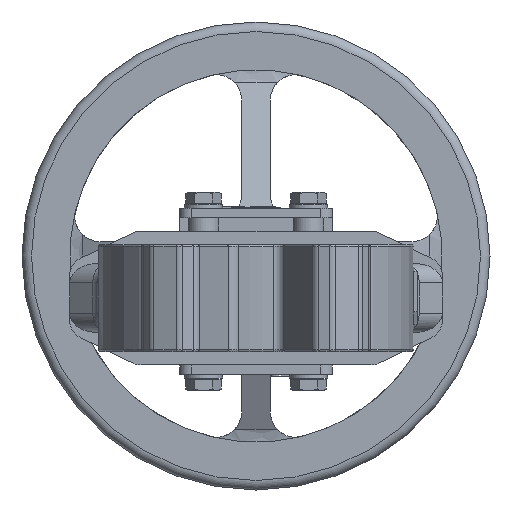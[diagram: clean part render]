
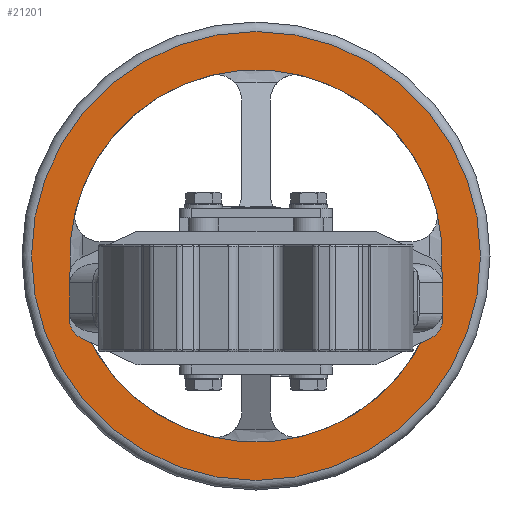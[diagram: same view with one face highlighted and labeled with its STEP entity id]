
A CAD part, front view. The second image highlights one B-rep face of the part: STEP entity #21201.
In plain terms, the highlighted planar face has unit normal (0, -1, 0).
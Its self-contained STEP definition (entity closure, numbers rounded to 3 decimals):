
#17650=CARTESIAN_POINT('',(-94.497,401.5,-2.013));
#17651=VERTEX_POINT('',#17650);
#18295=CARTESIAN_POINT('',(24.013,401.5,-72.497));
#18296=VERTEX_POINT('',#18295);
#18940=CARTESIAN_POINT('',(94.497,401.5,46.013));
#18941=VERTEX_POINT('',#18940);
#19425=CARTESIAN_POINT('',(-94.497,401.5,46.013));
#19426=VERTEX_POINT('',#19425);
#19446=CARTESIAN_POINT('',(0.,401.5,22.));
#19447=DIRECTION('',(0.0,1.0,0.0));
#19448=DIRECTION('',(1.0,0.0,0.0));
#19449=AXIS2_PLACEMENT_3D('',#19446,#19447,#19448);
#19450=CIRCLE('',#19449,97.5);
#19451=EDGE_CURVE('',#17651,#19426,#19450,.T.);
#19615=CARTESIAN_POINT('',(-24.013,401.5,-72.497));
#19616=VERTEX_POINT('',#19615);
#19636=CARTESIAN_POINT('',(0.,401.5,22.));
#19637=DIRECTION('',(0.0,1.0,0.0));
#19638=DIRECTION('',(1.0,0.0,0.0));
#19639=AXIS2_PLACEMENT_3D('',#19636,#19637,#19638);
#19640=CIRCLE('',#19639,97.5);
#19641=EDGE_CURVE('',#18296,#19616,#19640,.T.);
#19805=CARTESIAN_POINT('',(94.497,401.5,-2.013));
#19806=VERTEX_POINT('',#19805);
#19826=CARTESIAN_POINT('',(0.,401.5,22.));
#19827=DIRECTION('',(0.0,1.0,0.0));
#19828=DIRECTION('',(1.0,0.0,0.0));
#19829=AXIS2_PLACEMENT_3D('',#19826,#19827,#19828);
#19830=CIRCLE('',#19829,97.5);
#19831=EDGE_CURVE('',#18941,#19806,#19830,.T.);
#19853=CARTESIAN_POINT('',(0.,401.5,22.));
#19854=DIRECTION('',(0.0,1.0,0.0));
#19855=DIRECTION('',(1.0,0.0,0.0));
#19856=AXIS2_PLACEMENT_3D('',#19853,#19854,#19855);
#19857=CIRCLE('',#19856,97.5);
#19858=EDGE_CURVE('',#19616,#17651,#19857,.T.);
#19863=CARTESIAN_POINT('',(0.,401.5,22.));
#19864=DIRECTION('',(0.0,1.0,0.0));
#19865=DIRECTION('',(1.0,0.0,0.0));
#19866=AXIS2_PLACEMENT_3D('',#19863,#19864,#19865);
#19867=CIRCLE('',#19866,97.5);
#19868=EDGE_CURVE('',#19806,#18296,#19867,.T.);
#19878=CARTESIAN_POINT('',(24.013,401.5,116.497));
#19879=VERTEX_POINT('',#19878);
#19880=CARTESIAN_POINT('',(0.,401.5,22.));
#19881=DIRECTION('',(0.0,1.0,0.0));
#19882=DIRECTION('',(1.0,0.0,0.0));
#19883=AXIS2_PLACEMENT_3D('',#19880,#19881,#19882);
#19884=CIRCLE('',#19883,97.5);
#19885=EDGE_CURVE('',#19879,#18941,#19884,.T.);
#19904=CARTESIAN_POINT('',(-24.013,401.5,116.497));
#19905=VERTEX_POINT('',#19904);
#19912=CARTESIAN_POINT('',(0.,401.5,22.));
#19913=DIRECTION('',(0.0,1.0,0.0));
#19914=DIRECTION('',(1.0,0.0,0.0));
#19915=AXIS2_PLACEMENT_3D('',#19912,#19913,#19914);
#19916=CIRCLE('',#19915,97.5);
#19917=EDGE_CURVE('',#19426,#19905,#19916,.T.);
#21145=CARTESIAN_POINT('',(-117.5,401.5,22.0));
#21146=VERTEX_POINT('',#21145);
#21147=CARTESIAN_POINT('',(0.,401.5,22.));
#21148=DIRECTION('',(0.0,1.0,0.0));
#21149=DIRECTION('',(1.0,0.0,0.0));
#21150=AXIS2_PLACEMENT_3D('',#21147,#21148,#21149);
#21151=CIRCLE('',#21150,117.5);
#21152=EDGE_CURVE('',#21146,#21146,#21151,.T.);
#21177=CARTESIAN_POINT('',(0.,401.5,22.));
#21178=DIRECTION('',(0.0,1.0,0.0));
#21179=DIRECTION('',(-1.0,0.0,0.0));
#21180=AXIS2_PLACEMENT_3D('',#21177,#21178,#21179);
#21181=PLANE('',#21180);
#21182=ORIENTED_EDGE('',*,*,#21152,.F.);
#21183=EDGE_LOOP('',(#21182));
#21184=FACE_OUTER_BOUND('',#21183,.T.);
#21185=ORIENTED_EDGE('',*,*,#19885,.T.);
#21186=ORIENTED_EDGE('',*,*,#19831,.T.);
#21187=ORIENTED_EDGE('',*,*,#19868,.T.);
#21188=ORIENTED_EDGE('',*,*,#19641,.T.);
#21189=ORIENTED_EDGE('',*,*,#19858,.T.);
#21190=ORIENTED_EDGE('',*,*,#19451,.T.);
#21191=ORIENTED_EDGE('',*,*,#19917,.T.);
#21192=CARTESIAN_POINT('',(0.,401.5,22.));
#21193=DIRECTION('',(0.0,1.0,0.0));
#21194=DIRECTION('',(1.0,0.0,0.0));
#21195=AXIS2_PLACEMENT_3D('',#21192,#21193,#21194);
#21196=CIRCLE('',#21195,97.5);
#21197=EDGE_CURVE('',#19905,#19879,#21196,.T.);
#21198=ORIENTED_EDGE('',*,*,#21197,.T.);
#21199=EDGE_LOOP('',(#21185,#21186,#21187,#21188,#21189,#21190,#21191,#21198));
#21200=FACE_BOUND('',#21199,.T.);
#21201=ADVANCED_FACE('',(#21184,#21200),#21181,.F.);
